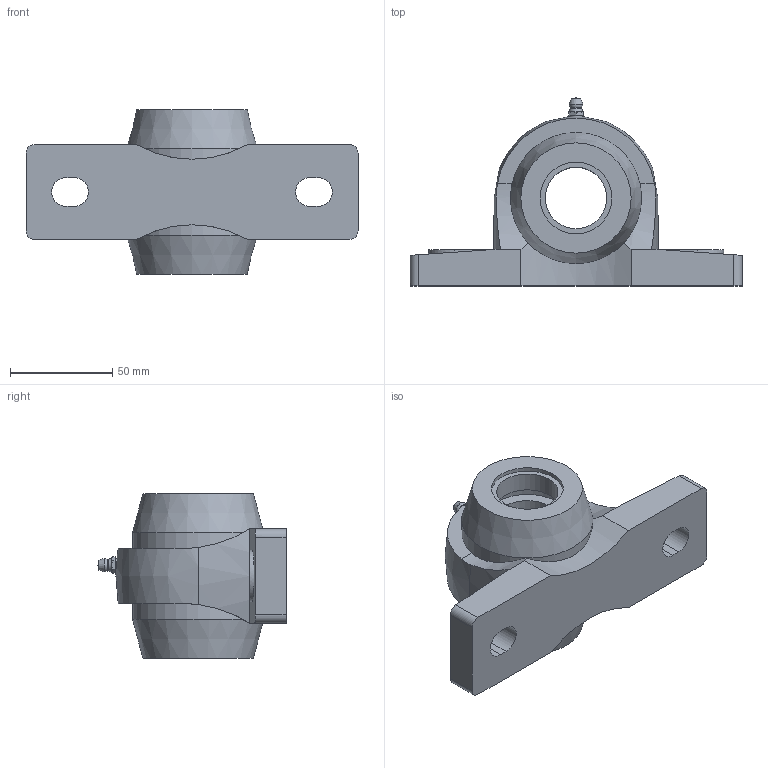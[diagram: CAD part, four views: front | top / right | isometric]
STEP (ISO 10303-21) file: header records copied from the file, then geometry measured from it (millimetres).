
FILE_DESCRIPTION(/* description */ (''),/* implementation_level */ '2;1');
FILE_NAME(/* name */ 'C:\Users\UGijyutu_200702\Desktop\77.プラスチックハウジング\MBPPL200V\MBPPL200VC\MBPPL206VC.stp',/* time_stamp */ '2023-02-10T15:31:36+09:00',/* author */ ('UGijyutu_200702'),/* organization */ (''),/* preprocessor_version */ 'ST-DEVELOPER v18',/* originating_system */ 'Autodesk Inventor 2020',/* authorisation */ '');
FILE_SCHEMA (('AUTOMOTIVE_DESIGN { 1 0 10303 214 3 1 1 }'));
Length unit declared in the file: millimetre
Products named in the file (5): MBPPL206VC; PPL206; MB6 V; 1/4-28UNF-2A; 206C
Assembly tree (5 placements, depth 2):
  MBPPL206VC
    PPL206
    MB6 V
    1/4-28UNF-2A
    206C  x2
Bounding box: 162 x 91.8 x 80.4 mm (x, y, z)
Volume: 245459.3 mm3; surface area: 79453.7 mm2
Topology: 5 solids, 5 shells, 131 faces, 329 edges, 223 vertices
Faces by surface type: plane 64, cylinder 41, cone 19, sphere 4, torus 2, bspline 1
Full cylindrical faces by diameter (mm): 3.2 x1, 5 x2, 5.359 x1, 6.35 x1, 30 x3, 35 x2, 40.5 x1, 46 x2, 60 x2, 63.8 x2, 64 x2
Entity records: 4279 total; most frequent: CARTESIAN_POINT 1097, DIRECTION 617, ORIENTED_EDGE 606, EDGE_CURVE 303, AXIS2_PLACEMENT_3D 244, VERTEX_POINT 205, EDGE_LOOP 144, LINE 129
